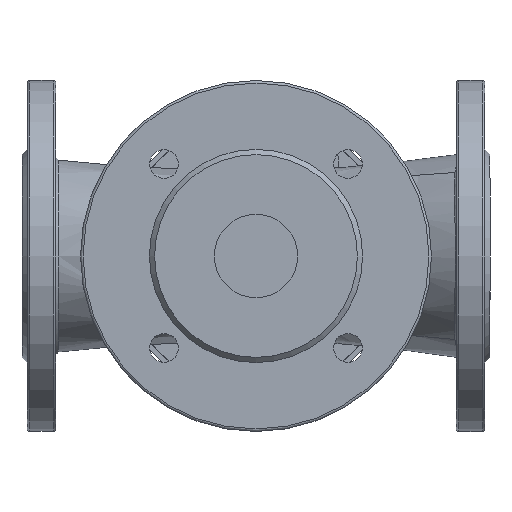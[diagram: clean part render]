
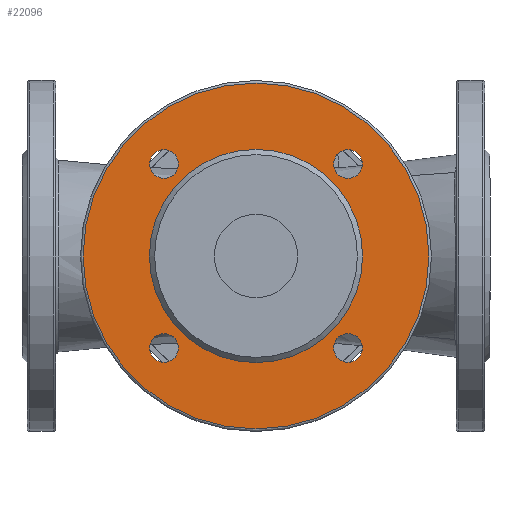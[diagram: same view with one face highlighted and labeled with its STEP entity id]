
A CAD part, front view. The second image highlights one B-rep face of the part: STEP entity #22096.
In plain terms, the highlighted planar face has unit normal (0, -1, 0).
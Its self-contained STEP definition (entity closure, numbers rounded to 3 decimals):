
#997=PLANE('',#23924);
#1210=FACE_BOUND('',#3875,.T.);
#1211=FACE_BOUND('',#3876,.T.);
#1212=FACE_BOUND('',#3877,.T.);
#1213=FACE_BOUND('',#3878,.T.);
#1214=FACE_BOUND('',#3879,.T.);
#2448=FACE_OUTER_BOUND('',#3874,.T.);
#3874=EDGE_LOOP('',(#20485));
#3875=EDGE_LOOP('',(#20486));
#3876=EDGE_LOOP('',(#20487));
#3877=EDGE_LOOP('',(#20488));
#3878=EDGE_LOOP('',(#20489));
#3879=EDGE_LOOP('',(#20490));
#8790=CIRCLE('',#23862,5.5);
#8792=CIRCLE('',#23865,5.5);
#8794=CIRCLE('',#23868,5.5);
#8796=CIRCLE('',#23871,5.5);
#8826=CIRCLE('',#23923,41.);
#8827=CIRCLE('',#23925,66.5);
#10925=VERTEX_POINT('',#43627);
#10927=VERTEX_POINT('',#43632);
#10929=VERTEX_POINT('',#43637);
#10931=VERTEX_POINT('',#43642);
#10976=VERTEX_POINT('',#45005);
#10977=VERTEX_POINT('',#45008);
#14111=EDGE_CURVE('',#10925,#10925,#8790,.T.);
#14113=EDGE_CURVE('',#10927,#10927,#8792,.T.);
#14115=EDGE_CURVE('',#10929,#10929,#8794,.T.);
#14117=EDGE_CURVE('',#10931,#10931,#8796,.T.);
#14167=EDGE_CURVE('',#10976,#10976,#8826,.T.);
#14168=EDGE_CURVE('',#10977,#10977,#8827,.T.);
#20485=ORIENTED_EDGE('',*,*,#14168,.F.);
#20486=ORIENTED_EDGE('',*,*,#14111,.T.);
#20487=ORIENTED_EDGE('',*,*,#14113,.T.);
#20488=ORIENTED_EDGE('',*,*,#14115,.T.);
#20489=ORIENTED_EDGE('',*,*,#14117,.T.);
#20490=ORIENTED_EDGE('',*,*,#14167,.F.);
#22096=ADVANCED_FACE('',(#2448,#1210,#1211,#1212,#1213,#1214),#997,.T.);
#23862=AXIS2_PLACEMENT_3D('',#43628,#29212,#29213);
#23865=AXIS2_PLACEMENT_3D('',#43633,#29218,#29219);
#23868=AXIS2_PLACEMENT_3D('',#43638,#29224,#29225);
#23871=AXIS2_PLACEMENT_3D('',#43643,#29230,#29231);
#23923=AXIS2_PLACEMENT_3D('',#45006,#29335,#29336);
#23924=AXIS2_PLACEMENT_3D('',#45007,#29337,#29338);
#23925=AXIS2_PLACEMENT_3D('',#45009,#29339,#29340);
#29212=DIRECTION('center_axis',(0.,1.,0.));
#29213=DIRECTION('ref_axis',(-0.581,0.,0.814));
#29218=DIRECTION('center_axis',(0.,1.,0.));
#29219=DIRECTION('ref_axis',(-0.814,0.,-0.581));
#29224=DIRECTION('center_axis',(0.,1.,0.));
#29225=DIRECTION('ref_axis',(0.581,0.,-0.814));
#29230=DIRECTION('center_axis',(0.,1.,0.));
#29231=DIRECTION('ref_axis',(0.814,0.,0.581));
#29335=DIRECTION('center_axis',(0.,-1.,0.));
#29336=DIRECTION('ref_axis',(0.814,0.,-0.581));
#29337=DIRECTION('center_axis',(0.,-1.,0.));
#29338=DIRECTION('ref_axis',(0.,0.,-1.));
#29339=DIRECTION('center_axis',(0.,1.,0.));
#29340=DIRECTION('ref_axis',(0.,0.,
-1.));
#43627=CARTESIAN_POINT('',(1302.759,1057.599,938.335));
#43628=CARTESIAN_POINT('Origin',(1302.759,1057.599,932.835));
#43632=CARTESIAN_POINT('',(1297.259,1057.599,862.125));
#43633=CARTESIAN_POINT('Origin',(1302.759,1057.599,862.125));
#43637=CARTESIAN_POINT('',(1373.47,1057.599,856.625));
#43638=CARTESIAN_POINT('Origin',(1373.47,1057.599,862.125));
#43642=CARTESIAN_POINT('',(1378.97,1057.599,932.835));
#43643=CARTESIAN_POINT('Origin',(1373.47,1057.599,932.835));
#45005=CARTESIAN_POINT('',(1379.115,1057.599,897.48));
#45006=CARTESIAN_POINT('Origin',(1338.115,1057.599,897.48));
#45007=CARTESIAN_POINT('Origin',(1271.615,1057.599,897.48));
#45008=CARTESIAN_POINT('',(1404.615,1057.599,897.48));
#45009=CARTESIAN_POINT('Origin',(1338.115,1057.599,897.48));
